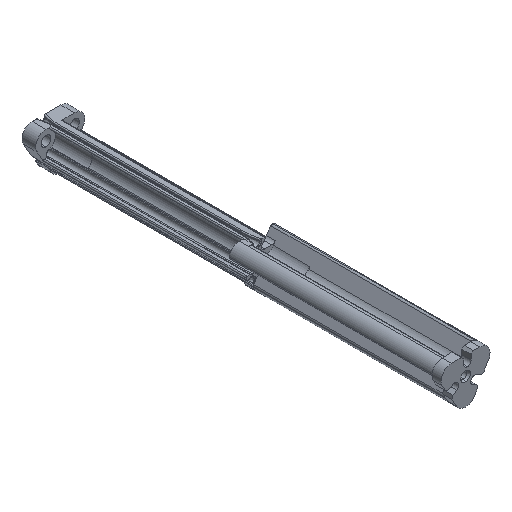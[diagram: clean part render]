
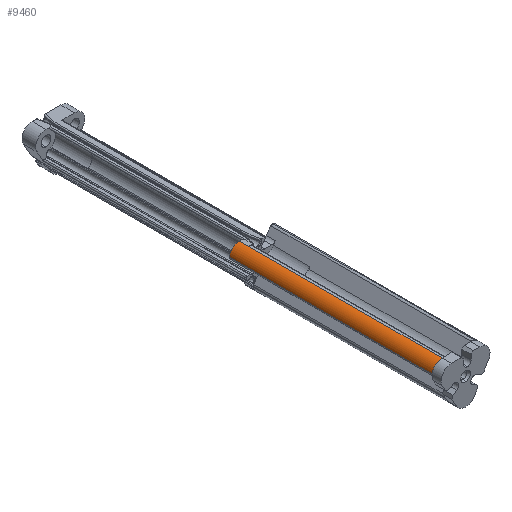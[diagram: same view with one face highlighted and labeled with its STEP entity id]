
A CAD part, isometric view. The second image highlights one B-rep face of the part: STEP entity #9460.
In plain terms, the highlighted cylindrical face has radius 2.2 mm (diameter 4.4 mm), a partial arc.
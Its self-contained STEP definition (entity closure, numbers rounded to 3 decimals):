
#213 = ORIENTED_EDGE ( 'NONE', *, *, #10293, .F. ) ;
#333 = DIRECTION ( 'NONE',  ( 0., 1., 0. ) ) ;
#337 = CARTESIAN_POINT ( 'NONE',  ( -3.101, -45., 3.99 ) ) ;
#471 = VECTOR ( 'NONE', #4105, 1000. ) ;
#1070 = AXIS2_PLACEMENT_3D ( 'NONE', #7458, #7503, #12786 ) ;
#1091 = DIRECTION ( 'NONE',  ( 0., 1., 0. ) ) ;
#1351 = ORIENTED_EDGE ( 'NONE', *, *, #4954, .T. ) ;
#1792 = ORIENTED_EDGE ( 'NONE', *, *, #4921, .T. ) ;
#1935 = VERTEX_POINT ( 'NONE', #337 ) ;
#2118 = LINE ( 'NONE', #3720, #4256 ) ;
#2737 = CARTESIAN_POINT ( 'NONE',  ( -3.628, -89., 3.942 ) ) ;
#2777 = VERTEX_POINT ( 'NONE', #5383 ) ;
#2836 = CARTESIAN_POINT ( 'NONE',  ( -5.166, -89., 2.591 ) ) ;
#2879 = CARTESIAN_POINT ( 'NONE',  ( -3.099, -89., 3.99 ) ) ;
#3517 = CARTESIAN_POINT ( 'NONE',  ( -3.1, -47., 1.79 ) ) ;
#3720 = CARTESIAN_POINT ( 'NONE',  ( -5.282, -89., 2.073 ) ) ;
#3955 = CARTESIAN_POINT ( 'NONE',  ( -3.1, -45., 1.79 ) ) ;
#4105 = DIRECTION ( 'NONE',  ( 0., 1., 0. ) ) ;
#4172 = ORIENTED_EDGE ( 'NONE', *, *, #8394, .T. ) ;
#4256 = VECTOR ( 'NONE', #4721, 1000. ) ;
#4504 = AXIS2_PLACEMENT_3D ( 'NONE', #3955, #1091, #5016 ) ;
#4607 = DIRECTION ( 'NONE',  ( 0., 0., 1. ) ) ;
#4626 = VERTEX_POINT ( 'NONE', #10347 ) ;
#4721 = DIRECTION ( 'NONE',  ( 0., 1., 0. ) ) ;
#4921 = EDGE_CURVE ( 'NONE', #2777, #1935, #9409, .T. ) ;
#4954 = EDGE_CURVE ( 'NONE', #7833, #2777, #13702, .T. ) ;
#5016 = DIRECTION ( 'NONE',  ( 0., 0., -1. ) ) ;
#5281 = VECTOR ( 'NONE', #333, 1000. ) ;
#5383 = CARTESIAN_POINT ( 'NONE',  ( -3.101, -47., 3.99 ) ) ;
#5538 = CARTESIAN_POINT ( 'NONE',  ( -5.282, -45., 2.073 ) ) ;
#5722 = CARTESIAN_POINT ( 'NONE',  ( -3.101, -47., 3.99 ) ) ;
#6724 = CARTESIAN_POINT ( 'NONE',  ( -3.099, -89., 3.99 ) ) ;
#6755 = CIRCLE ( 'NONE', #4504, 2.2 ) ;
#7031 = CARTESIAN_POINT ( 'NONE',  ( -5.282, -89., 2.072 ) ) ;
#7389 = CARTESIAN_POINT ( 'NONE',  ( -3.1, -89., 3.99 ) ) ;
#7458 = CARTESIAN_POINT ( 'NONE',  ( -3.1, -89., 1.79 ) ) ;
#7503 = DIRECTION ( 'NONE',  ( 0., 1., 0. ) ) ;
#7722 = DIRECTION ( 'NONE',  ( 0., -1., 0. ) ) ;
#7833 = VERTEX_POINT ( 'NONE', #9732 ) ;
#8196 = VERTEX_POINT ( 'NONE', #6724 ) ;
#8213 = AXIS2_PLACEMENT_3D ( 'NONE', #3517, #7722, #4607 ) ;
#8394 = EDGE_CURVE ( 'NONE', #8196, #7833, #9702, .T. ) ;
#8874 = EDGE_CURVE ( 'NONE', #12454, #1935, #6755, .T. ) ;
#9071 = CARTESIAN_POINT ( 'NONE',  ( -4.122, -89., 3.756 ) ) ;
#9196 = CARTESIAN_POINT ( 'NONE',  ( -4.917, -89., 3.058 ) ) ;
#9238 = CARTESIAN_POINT ( 'NONE',  ( -4.353, -89., 3.617 ) ) ;
#9409 = LINE ( 'NONE', #5722, #5281 ) ;
#9460 = ADVANCED_FACE ( 'NONE', ( #11879 ), #12218, .T. ) ;
#9594 = ORIENTED_EDGE ( 'NONE', *, *, #13124, .T. ) ;
#9702 = LINE ( 'NONE', #7389, #471 ) ;
#9732 = CARTESIAN_POINT ( 'NONE',  ( -3.1, -47., 3.99 ) ) ;
#10104 = CARTESIAN_POINT ( 'NONE',  ( -3.363, -89., 3.99 ) ) ;
#10293 = EDGE_CURVE ( 'NONE', #4626, #12454, #2118, .T. ) ;
#10347 = CARTESIAN_POINT ( 'NONE',  ( -5.282, -89., 2.072 ) ) ;
#10355 = B_SPLINE_CURVE_WITH_KNOTS ( 'NONE', 3,
 ( #7031, #11178, #2836, #9196, #13436, #9238, #9071, #2737, #10104, #2879 ),
 .UNSPECIFIED., .F., .F.,
 ( 4, 2, 2, 2, 4 ),
 ( 0., 0.212, 0.425, 0.637, 0.85 ),
 .UNSPECIFIED. ) ;
#10360 = EDGE_LOOP ( 'NONE', ( #9594, #4172, #1351, #1792, #11524, #213 ) ) ;
#11178 = CARTESIAN_POINT ( 'NONE',  ( -5.248, -89., 2.335 ) ) ;
#11524 = ORIENTED_EDGE ( 'NONE', *, *, #8874, .F. ) ;
#11879 = FACE_OUTER_BOUND ( 'NONE', #10360, .T. ) ;
#12218 = CYLINDRICAL_SURFACE ( 'NONE', #1070, 2.2 ) ;
#12454 = VERTEX_POINT ( 'NONE', #5538 ) ;
#12786 = DIRECTION ( 'NONE',  ( 0., 0., 1. ) ) ;
#13124 = EDGE_CURVE ( 'NONE', #4626, #8196, #10355, .T. ) ;
#13436 = CARTESIAN_POINT ( 'NONE',  ( -4.75, -89., 3.269 ) ) ;
#13702 = CIRCLE ( 'NONE', #8213, 2.2 ) ;
